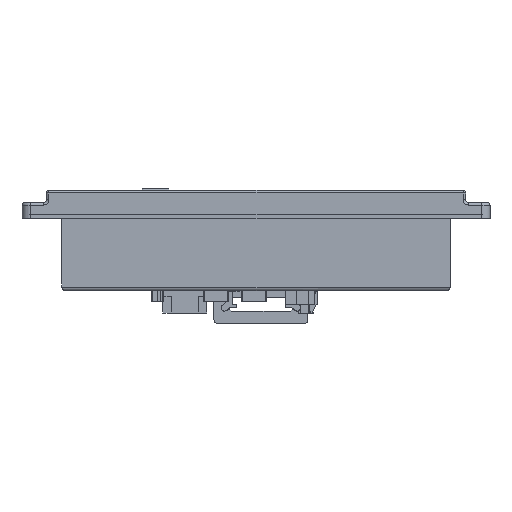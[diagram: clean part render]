
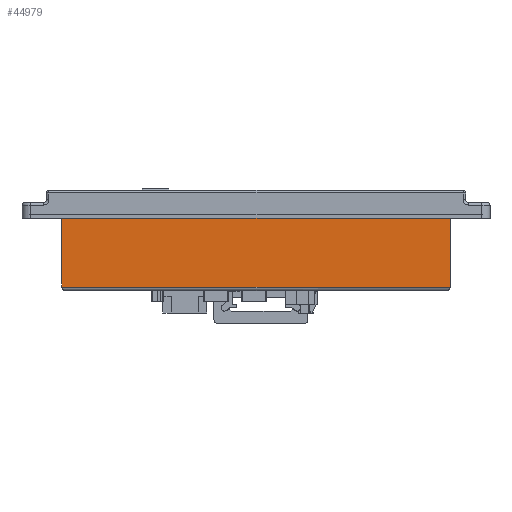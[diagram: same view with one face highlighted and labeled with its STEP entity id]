
A CAD part, left-side view. The second image highlights one B-rep face of the part: STEP entity #44979.
In plain terms, the highlighted planar face has unit normal (-1, 0, 0).
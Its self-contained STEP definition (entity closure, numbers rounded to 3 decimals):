
#4911 = PLANE ( 'NONE',  #34943 ) ;
#6770 = ORIENTED_EDGE ( 'NONE', *, *, #45736, .F. ) ;
#7977 = ORIENTED_EDGE ( 'NONE', *, *, #56024, .T. ) ;
#8648 = DIRECTION ( 'NONE',  ( 0., 0., -1. ) ) ;
#9874 = CARTESIAN_POINT ( 'NONE',  ( -191., -112., -39.8 ) ) ;
#10139 = LINE ( 'NONE', #9874, #13595 ) ;
#10757 = VERTEX_POINT ( 'NONE', #47804 ) ;
#13474 = DIRECTION ( 'NONE',  ( 0., 1., 0. ) ) ;
#13595 = VECTOR ( 'NONE', #17686, 1000. ) ;
#13860 = EDGE_LOOP ( 'NONE', ( #23625, #6770, #48571, #7977 ) ) ;
#14217 = CARTESIAN_POINT ( 'NONE',  ( -191., 112., -39.8 ) ) ;
#14314 = LINE ( 'NONE', #31175, #28366 ) ;
#15839 = EDGE_CURVE ( 'NONE', #26191, #19667, #14314, .T. ) ;
#16805 = LINE ( 'NONE', #44817, #30185 ) ;
#16860 = CARTESIAN_POINT ( 'NONE',  ( -191., 112., -0.2 ) ) ;
#17686 = DIRECTION ( 'NONE',  ( 0., 0., 1. ) ) ;
#18721 = VECTOR ( 'NONE', #45583, 1000. ) ;
#19667 = VERTEX_POINT ( 'NONE', #52219 ) ;
#22369 = DIRECTION ( 'NONE',  ( 1., 0., 0. ) ) ;
#23625 = ORIENTED_EDGE ( 'NONE', *, *, #43938, .F. ) ;
#24762 = VERTEX_POINT ( 'NONE', #16860 ) ;
#26191 = VERTEX_POINT ( 'NONE', #26858 ) ;
#26858 = CARTESIAN_POINT ( 'NONE',  ( -191., -112., -39.8 ) ) ;
#27185 = DIRECTION ( 'NONE',  ( 0., -1., 0. ) ) ;
#28366 = VECTOR ( 'NONE', #13474, 1000. ) ;
#30185 = VECTOR ( 'NONE', #27185, 1000. ) ;
#31175 = CARTESIAN_POINT ( 'NONE',  ( -191., 0., -39.8 ) ) ;
#32814 = FACE_OUTER_BOUND ( 'NONE', #13860, .T. ) ;
#33504 = LINE ( 'NONE', #14217, #18721 ) ;
#34943 = AXIS2_PLACEMENT_3D ( 'NONE', #49165, #22369, #8648 ) ;
#43938 = EDGE_CURVE ( 'NONE', #24762, #10757, #16805, .T. ) ;
#44817 = CARTESIAN_POINT ( 'NONE',  ( -191., 112., -0.2 ) ) ;
#44979 = ADVANCED_FACE ( 'NONE', ( #32814 ), #4911, .F. ) ;
#45583 = DIRECTION ( 'NONE',  ( 0., 0., 1. ) ) ;
#45736 = EDGE_CURVE ( 'NONE', #19667, #24762, #33504, .T. ) ;
#47804 = CARTESIAN_POINT ( 'NONE',  ( -191., -112., -0.2 ) ) ;
#48571 = ORIENTED_EDGE ( 'NONE', *, *, #15839, .F. ) ;
#49165 = CARTESIAN_POINT ( 'NONE',  ( -191., 0., -42. ) ) ;
#52219 = CARTESIAN_POINT ( 'NONE',  ( -191., 112., -39.8 ) ) ;
#56024 = EDGE_CURVE ( 'NONE', #26191, #10757, #10139, .T. ) ;
